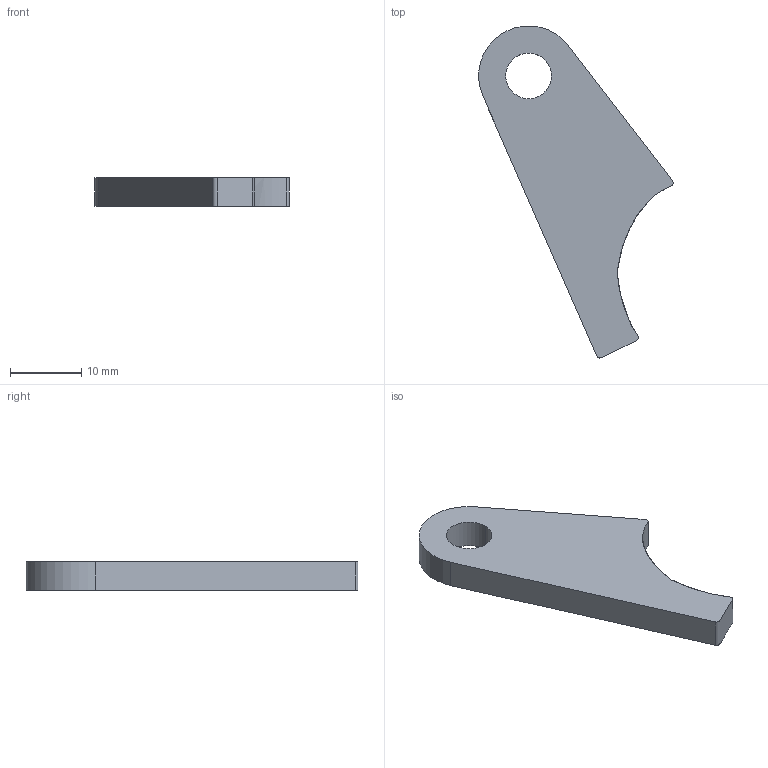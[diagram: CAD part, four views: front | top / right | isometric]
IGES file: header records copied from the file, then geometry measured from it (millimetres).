
Start section: START RECORD GO HERE.
Global section: file name: 20M_RL_FU.igs; native system: IBM CATIA IGES - CATIA Version 5 Release 19 ; preprocessor: CATIA Version 5 Release 19 ; author: alexb; organization: LAPTOP-PR6NE7IP; date: 20191216.213536; units: millimetre
Bounding box: 27.25 x 46.5 x 4 mm (x, y, z)
Surface area: 1692.2 mm2 (no closed solid volume)
Topology: 0 solids, 0 shells, 14 faces, 72 edges, 80 vertices
Faces by surface type: revolution 7, plane 5, extrusion 2
